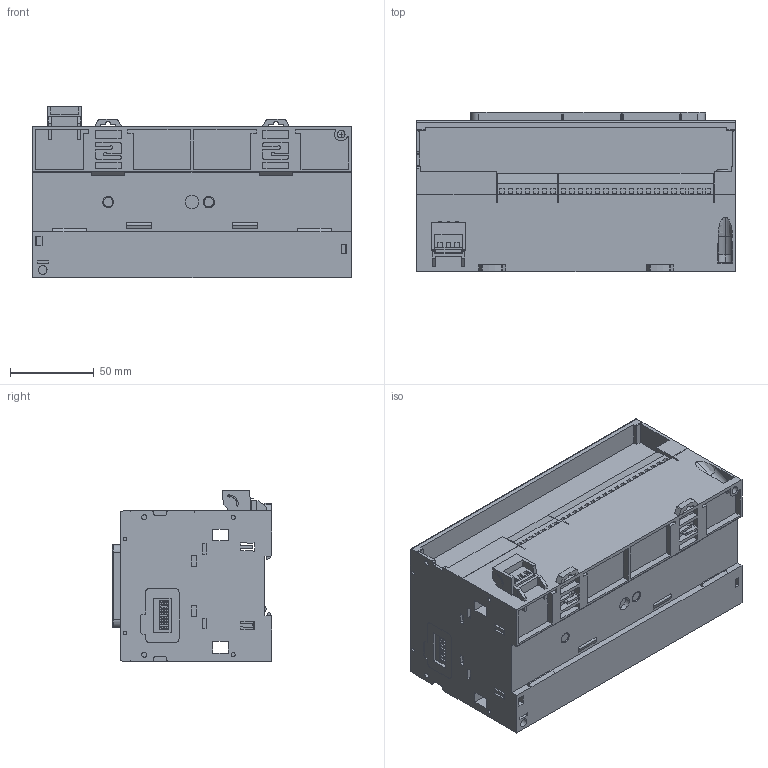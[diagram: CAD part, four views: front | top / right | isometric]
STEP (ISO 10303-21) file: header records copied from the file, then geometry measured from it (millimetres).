
FILE_DESCRIPTION(('STEP AP242'),'1');
FILE_NAME('tm241ce40r.stp','2019-09-30T07:09:23',('TraceParts'),('TraceParts S.A.'),'Spatial InterOp 3D',' ',' ');
FILE_SCHEMA(('AP242_MANAGED_MODEL_BASED_3D_ENGINEERING_MIM_LF {1 0 10303 442 1 1 4}'));
Length unit declared in the file: millimetre
Products named in the file (1): tm241ce40r
Bounding box: 190 x 95.05 x 102 mm (x, y, z)
Volume: 1345360.1 mm3; surface area: 141654.1 mm2
Topology: 1 solids, 1 shells, 6243 faces, 17257 edges, 11517 vertices
Faces by surface type: plane 4919, cylinder 686, extrusion 616, torus 10, revolution 8, bspline 4
Entity records: 212447 total; most frequent: CARTESIAN_POINT 56863, ORIENTED_EDGE 34514, DIRECTION 27619, EDGE_CURVE 17257, VECTOR 13563, LINE 12947, VERTEX_POINT 11517, AXIS2_PLACEMENT_3D 7024
